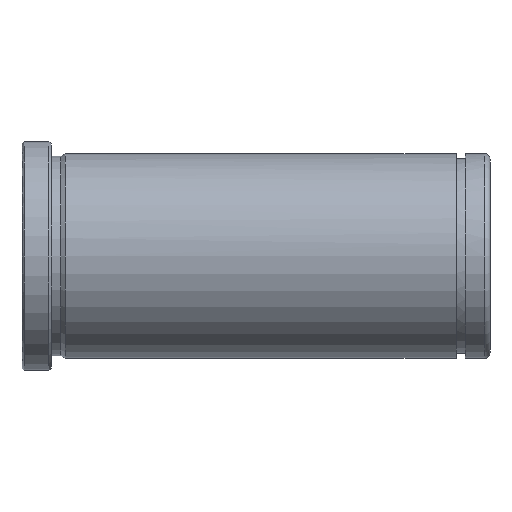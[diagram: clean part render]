
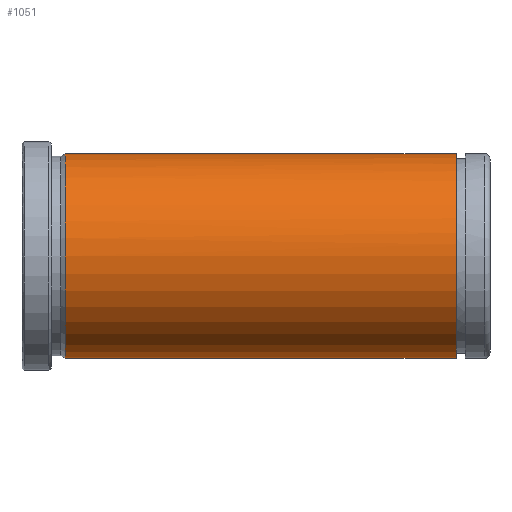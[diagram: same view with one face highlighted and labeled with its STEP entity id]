
A CAD part, front view. The second image highlights one B-rep face of the part: STEP entity #1051.
In plain terms, the highlighted cylindrical face has radius 21 mm (diameter 42 mm), a partial arc.
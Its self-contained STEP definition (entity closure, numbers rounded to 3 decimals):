
#851=CARTESIAN_POINT('Vertex',(8.866,0.,-21.)) ;
#858=CARTESIAN_POINT('Vertex',(8.866,0.,21.)) ;
#887=CARTESIAN_POINT('Axis2P3D Location',(8.866,0.,0.)) ;
#891=CARTESIAN_POINT('Vertex',(8.866,-21.,0.)) ;
#894=CARTESIAN_POINT('Axis2P3D Location',(8.866,0.,0.)) ;
#985=CARTESIAN_POINT('Line Origine',(192.,0.,21.)) ;
#989=CARTESIAN_POINT('Vertex',(89.05,0.,21.)) ;
#1006=CARTESIAN_POINT('Vertex',(89.05,0.,-21.)) ;
#1009=CARTESIAN_POINT('Line Origine',(192.,0.,-21.)) ;
#1023=CARTESIAN_POINT('Axis2P3D Location',(192.,0.,0.)) ;
#1028=CARTESIAN_POINT('Axis2P3D Location',(89.05,0.,0.)) ;
#1032=CARTESIAN_POINT('Vertex',(89.05,-21.,0.)) ;
#1036=CARTESIAN_POINT('Control Point',(89.05,0.,21.)) ;
#1037=CARTESIAN_POINT('Control Point',(89.05,-6.597,21.)) ;
#1038=CARTESIAN_POINT('Control Point',(89.05,-13.201,18.417)) ;
#1039=CARTESIAN_POINT('Control Point',(89.05,-18.417,13.201)) ;
#1040=CARTESIAN_POINT('Control Point',(89.05,-21.,6.597)) ;
#1041=CARTESIAN_POINT('Control Point',(89.05,-21.,0.)) ;
#888=DIRECTION('Axis2P3D Direction',(1.,0.,-0.)) ;
#895=DIRECTION('Axis2P3D Direction',(1.,0.,-0.)) ;
#986=DIRECTION('Vector Direction',(-1.,0.,0.)) ;
#1010=DIRECTION('Vector Direction',(-1.,0.,0.)) ;
#1024=DIRECTION('Axis2P3D Direction',(-1.,-0.,-0.)) ;
#1025=DIRECTION('Axis2P3D XDirection',(0.,0.,-1.)) ;
#1029=DIRECTION('Axis2P3D Direction',(-1.,-0.,-0.)) ;
#889=AXIS2_PLACEMENT_3D('Circle Axis2P3D',#887,#888,$) ;
#896=AXIS2_PLACEMENT_3D('Circle Axis2P3D',#894,#895,$) ;
#1026=AXIS2_PLACEMENT_3D('Cylinder Axis2P3D',#1023,#1024,#1025) ;
#1030=AXIS2_PLACEMENT_3D('Circle Axis2P3D',#1028,#1029,$) ;
#1044=ORIENTED_EDGE('',*,*,#1013,.T.) ;
#1045=ORIENTED_EDGE('',*,*,#1034,.F.) ;
#1046=ORIENTED_EDGE('',*,*,#1042,.F.) ;
#1047=ORIENTED_EDGE('',*,*,#991,.T.) ;
#1048=ORIENTED_EDGE('',*,*,#898,.T.) ;
#1049=ORIENTED_EDGE('',*,*,#893,.T.) ;
#987=VECTOR('Line Direction',#986,1.) ;
#1011=VECTOR('Line Direction',#1010,1.) ;
#1051=ADVANCED_FACE('553-32X96',(#1050),#1027,.T.) ;
#1035=B_SPLINE_CURVE_WITH_KNOTS('',5,(#1036,#1037,#1038,#1039,#1040,#1041),.UNSPECIFIED.,.F.,.U.,(6,6),(-16.493,16.493),.UNSPECIFIED.) ;
#890=CIRCLE('generated circle',#889,21.) ;
#897=CIRCLE('generated circle',#896,21.) ;
#1031=CIRCLE('generated circle',#1030,21.) ;
#1027=CYLINDRICAL_SURFACE('generated cylinder',#1026,21.) ;
#893=EDGE_CURVE('',#892,#852,#890,.T.) ;
#898=EDGE_CURVE('',#859,#892,#897,.T.) ;
#991=EDGE_CURVE('',#990,#859,#988,.T.) ;
#1013=EDGE_CURVE('',#852,#1007,#1012,.F.) ;
#1034=EDGE_CURVE('',#1033,#1007,#1031,.F.) ;
#1042=EDGE_CURVE('',#990,#1033,#1035,.T.) ;
#1043=EDGE_LOOP('',(#1044,#1045,#1046,#1047,#1048,#1049)) ;
#1050=FACE_OUTER_BOUND('',#1043,.T.) ;
#988=LINE('Line',#985,#987) ;
#1012=LINE('Line',#1009,#1011) ;
#852=VERTEX_POINT('',#851) ;
#859=VERTEX_POINT('',#858) ;
#892=VERTEX_POINT('',#891) ;
#990=VERTEX_POINT('',#989) ;
#1007=VERTEX_POINT('',#1006) ;
#1033=VERTEX_POINT('',#1032) ;
